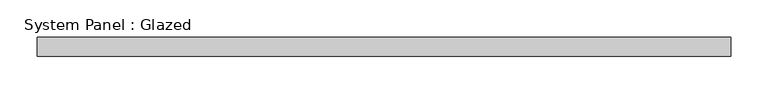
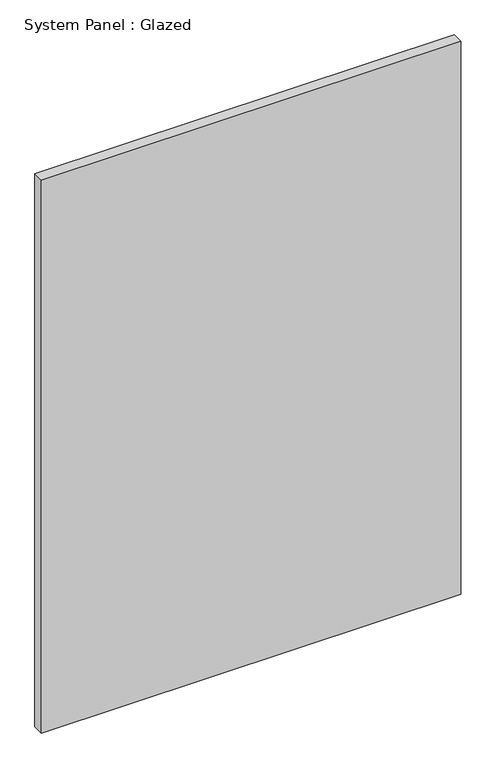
"""IFC4 building model written with IfcOpenShell, lengths in millimetres: plate geometry, System Panel : Glazed."""

from ifc_helpers import new_model, si_unit, origin, origin_with_axes, place, context, project, spatial, polyline, outline, extrude, source, transform, mapped, element, save


def system_panel_glazed_42f259ca(model_context):
    return source(origin(), model_context, "Body", "SweptSolid", [
        extrude(outline(polyline([(462.5, 24.5), (-462.5, 24.5), (-462.5, 49.5), (462.5, 49.5), (462.5, 24.5)])), origin_with_axes(), (0.0, 0.0, 1.0), 1289.7256931),
    ])


if __name__ == "__main__":
    model = new_model("IFC4")
    model_context = context("Model", 3, world=origin())
    ifc_project = project(units=[si_unit("LENGTHUNIT", "METRE", prefix="MILLI")], contexts=[model_context])
    site = spatial("IfcSite", under=ifc_project)
    building = spatial("IfcBuilding", under=site)
    placement = place(None, origin())
    system_panel_glazed_shape = system_panel_glazed_42f259ca(model_context)
    element("IfcPlate", 1, ObjectType="System Panel : Glazed", at=placement, inside=building, context=model_context, shape_type="MappedRepresentation", body=[
        mapped(system_panel_glazed_shape, transform((0.0, 0.0, 0.0), x_axis=(1.0, 0.0, 0.0), y_axis=(0.0, 1.0, 0.0), z_axis=(0.0, 0.0, 1.0))),
    ])
    save(model, "model.ifc")
